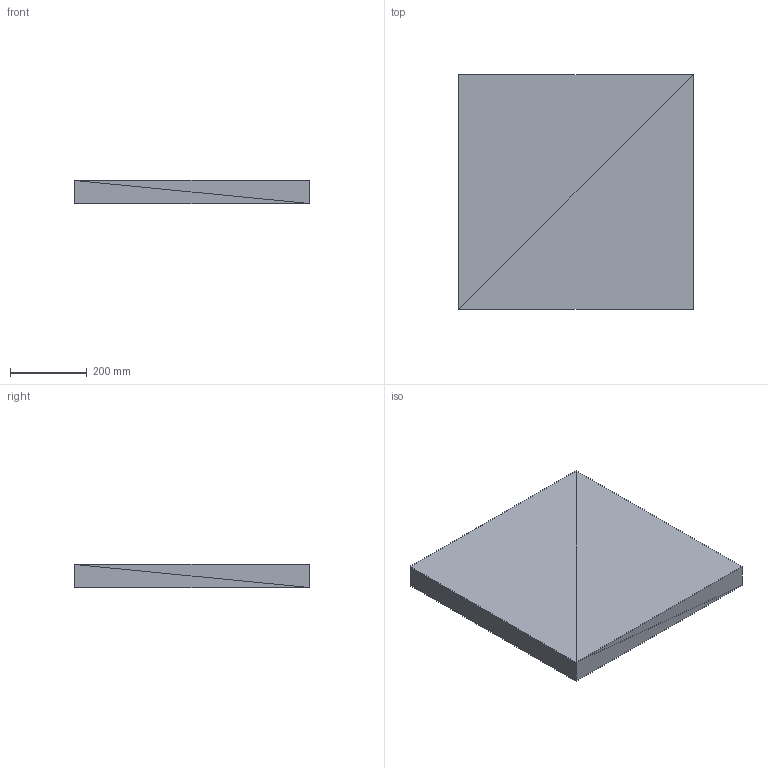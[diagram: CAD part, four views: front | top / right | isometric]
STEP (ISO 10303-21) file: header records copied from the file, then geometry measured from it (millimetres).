
FILE_DESCRIPTION(('ISINAC STEP AP214'),'2;1');
FILE_NAME('ISINAC_C.610_60mm_ADHESIVO','2026-05-03T10:49:19',('ISINAC'),('www.isinac.com'),'ISINAC BIM Generator 1.0','','');
FILE_SCHEMA(('AUTOMOTIVE_DESIGN'));
Length unit declared in the file: millimetre
Products named in the file (1): ISINAC_C.610_60mm_ADHESIVO
Bounding box: 610 x 610 x 60 mm (x, y, z)
Surface area: 890600 mm2 (no closed solid volume)
Topology: 0 solids, 12 shells, 12 faces, 36 edges, 36 vertices
Faces by surface type: plane 12
Entity records: 145 total; most frequent: CARTESIAN_POINT 48, DIRECTION 24, POLY_LOOP 12, FACE_OUTER_BOUND 12, AXIS2_PLACEMENT_3D 12, PLANE 12, FACE_SURFACE 12, CLOSED_SHELL 1
